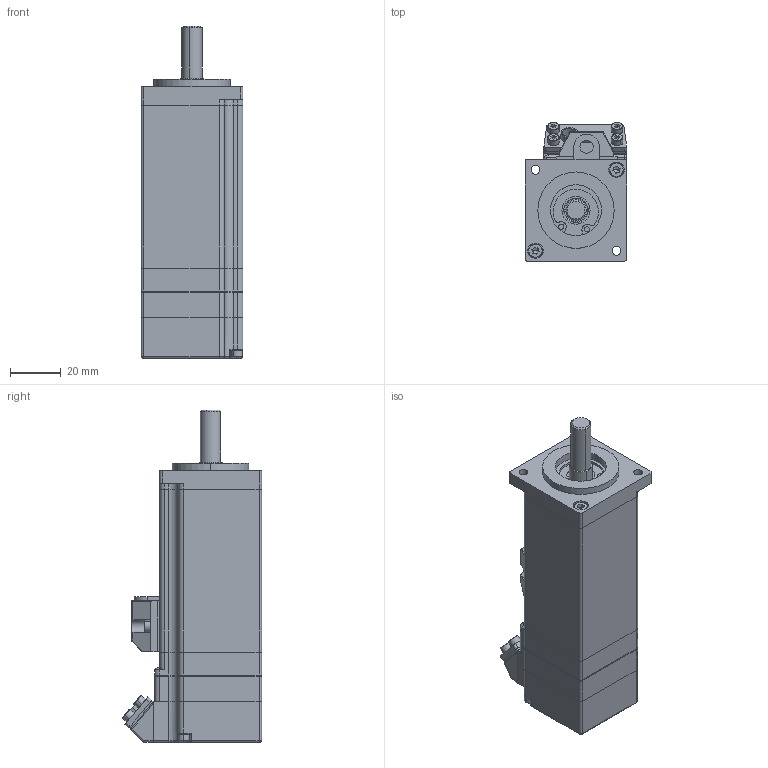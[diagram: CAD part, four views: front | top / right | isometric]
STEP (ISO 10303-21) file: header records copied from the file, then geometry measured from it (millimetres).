
FILE_DESCRIPTION (( 'STEP AP203' ), '1' );
FILE_NAME ('SMH40-1030210ENL-1增量旋变三维光轴.STEP', '2020-03-18T05:45:00', ( 'user' ), ( '' ), 'SwSTEP 2.0', 'SolidWorks 2016', '' );
FILE_SCHEMA (( 'CONFIG_CONTROL_DESIGN' ));
Length unit declared in the file: millimetre
Products named in the file (1): SMH40-1030210ENL-1增量旋变三维光轴
Bounding box: 40 x 54.65 x 130.4 mm (x, y, z)
Volume: 76883.7 mm3; surface area: 57643.7 mm2
Topology: 24 solids, 24 shells, 1004 faces, 2747 edges, 1749 vertices
Faces by surface type: cylinder 418, plane 380, torus 106, cone 55, sphere 43, bspline 2
Entity records: 32455 total; most frequent: CARTESIAN_POINT 6959, DIRECTION 5534, ORIENTED_EDGE 5254, EDGE_CURVE 2627, AXIS2_PLACEMENT_3D 2178, VERTEX_POINT 1687, LINE 1178, VECTOR 1178
